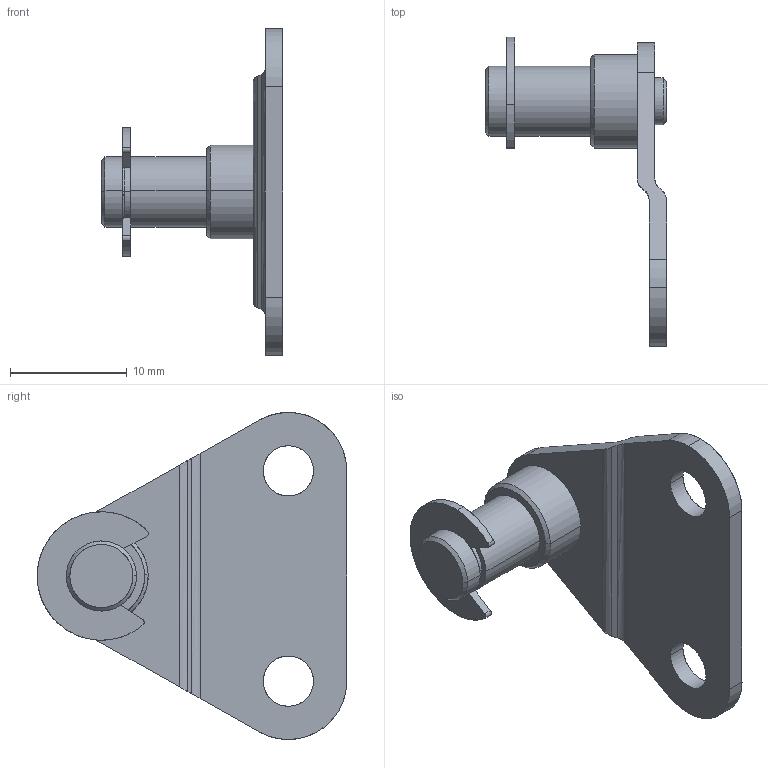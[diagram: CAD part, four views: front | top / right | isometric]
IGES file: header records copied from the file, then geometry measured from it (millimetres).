
Start section: SolidWorks IGES file using analytic representation for surfaces
Bounding box: 15.5 x 26.49 x 28 mm (x, y, z)
Surface area: 1657 mm2 (no closed solid volume)
Topology: 0 solids, 0 shells, 61 faces, 976 edges, 976 vertices
Faces by surface type: revolution 39, bspline 22
